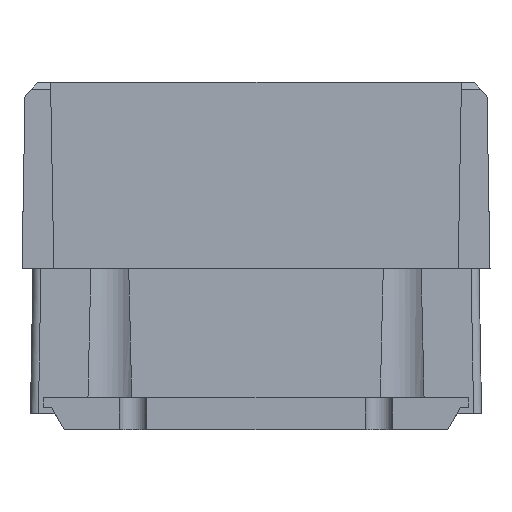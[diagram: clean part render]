
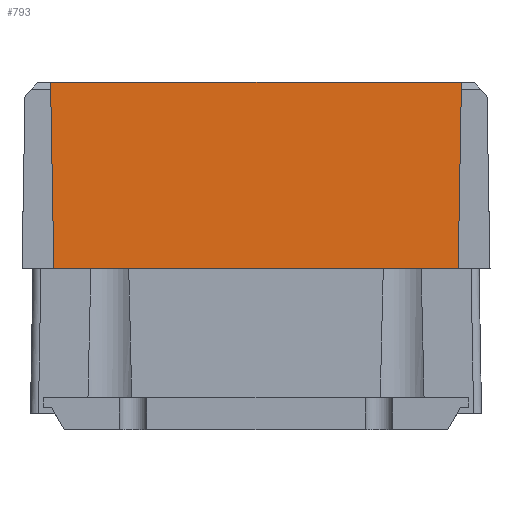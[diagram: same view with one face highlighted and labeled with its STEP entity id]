
A CAD part, left-side view. The second image highlights one B-rep face of the part: STEP entity #793.
In plain terms, the highlighted planar face has unit normal (-1, 0, 0.018).
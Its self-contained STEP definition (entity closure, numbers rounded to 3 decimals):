
#457=CARTESIAN_POINT('',(-40.373,33.445,56.4));
#458=VERTEX_POINT('',#457);
#483=CARTESIAN_POINT('',(-40.9,32.918,26.2));
#484=VERTEX_POINT('',#483);
#491=CARTESIAN_POINT('',(-40.9,32.918,26.2));
#492=DIRECTION('',(0.017,0.017,1.));
#493=VECTOR('',#492,30.209);
#494=LINE('',#491,#493);
#495=EDGE_CURVE('',#484,#458,#494,.T.);
#683=CARTESIAN_POINT('',(-40.373,-33.445,56.4));
#684=VERTEX_POINT('',#683);
#691=CARTESIAN_POINT('',(-40.9,-32.918,26.2));
#692=VERTEX_POINT('',#691);
#693=CARTESIAN_POINT('',(-40.9,-32.918,26.2));
#694=DIRECTION('',(0.017,-0.017,1.));
#695=VECTOR('',#694,30.209);
#696=LINE('',#693,#695);
#697=EDGE_CURVE('',#692,#684,#696,.T.);
#724=CARTESIAN_POINT('',(-40.373,-32.918,56.4));
#725=DIRECTION('',(1.,0.,-0.017));
#726=DIRECTION('',(-0.017,0.,-1.));
#727=AXIS2_PLACEMENT_3D('',#724,#725,#726);
#728=PLANE('',#727);
#729=CARTESIAN_POINT('',(-40.9,26.815,26.2));
#730=VERTEX_POINT('',#729);
#731=CARTESIAN_POINT('',(-40.9,26.815,26.2));
#732=DIRECTION('',(0.0,1.0,0.0));
#733=VECTOR('',#732,6.103);
#734=LINE('',#731,#733);
#735=EDGE_CURVE('',#730,#484,#734,.T.);
#736=ORIENTED_EDGE('',*,*,#735,.F.);
#737=CARTESIAN_POINT('',(-40.9,20.785,26.2));
#738=VERTEX_POINT('',#737);
#739=CARTESIAN_POINT('',(-40.9,20.785,26.2));
#740=DIRECTION('',(0.0,1.0,0.0));
#741=VECTOR('',#740,6.03);
#742=LINE('',#739,#741);
#743=EDGE_CURVE('',#730,#738,#742,.F.);
#744=ORIENTED_EDGE('',*,*,#743,.T.);
#745=CARTESIAN_POINT('',(-40.9,-20.785,26.2));
#746=VERTEX_POINT('',#745);
#747=CARTESIAN_POINT('',(-40.9,-20.785,26.2));
#748=DIRECTION('',(0.0,1.0,0.0));
#749=VECTOR('',#748,41.57);
#750=LINE('',#747,#749);
#751=EDGE_CURVE('',#746,#738,#750,.T.);
#752=ORIENTED_EDGE('',*,*,#751,.F.);
#753=CARTESIAN_POINT('',(-40.9,-26.815,26.2));
#754=VERTEX_POINT('',#753);
#755=CARTESIAN_POINT('',(-40.9,-26.815,26.2));
#756=DIRECTION('',(0.0,1.0,0.0));
#757=VECTOR('',#756,6.03);
#758=LINE('',#755,#757);
#759=EDGE_CURVE('',#746,#754,#758,.F.);
#760=ORIENTED_EDGE('',*,*,#759,.T.);
#761=CARTESIAN_POINT('',(-40.9,-32.918,26.2));
#762=DIRECTION('',(0.0,1.0,0.0));
#763=VECTOR('',#762,6.103);
#764=LINE('',#761,#763);
#765=EDGE_CURVE('',#692,#754,#764,.T.);
#766=ORIENTED_EDGE('',*,*,#765,.F.);
#767=ORIENTED_EDGE('',*,*,#697,.T.);
#768=CARTESIAN_POINT('',(-40.371,-33.447,56.5));
#769=VERTEX_POINT('',#768);
#770=CARTESIAN_POINT('',(-40.371,-33.447,56.5));
#771=DIRECTION('',(-0.017,0.017,-1.));
#772=VECTOR('',#771,0.1);
#773=LINE('',#770,#772);
#774=EDGE_CURVE('',#684,#769,#773,.F.);
#775=ORIENTED_EDGE('',*,*,#774,.T.);
#776=CARTESIAN_POINT('',(-40.371,33.447,56.5));
#777=VERTEX_POINT('',#776);
#778=CARTESIAN_POINT('',(-40.371,-33.447,56.5));
#779=DIRECTION('',(0.0,1.0,0.0));
#780=VECTOR('',#779,66.894);
#781=LINE('',#778,#780);
#782=EDGE_CURVE('',#777,#769,#781,.F.);
#783=ORIENTED_EDGE('',*,*,#782,.F.);
#784=CARTESIAN_POINT('',(-40.373,33.445,56.4));
#785=DIRECTION('',(0.017,0.017,1.));
#786=VECTOR('',#785,0.1);
#787=LINE('',#784,#786);
#788=EDGE_CURVE('',#777,#458,#787,.F.);
#789=ORIENTED_EDGE('',*,*,#788,.T.);
#790=ORIENTED_EDGE('',*,*,#495,.F.);
#791=EDGE_LOOP('',(#736,#744,#752,#760,#766,#767,#775,#783,#789,#790));
#792=FACE_OUTER_BOUND('',#791,.T.);
#793=ADVANCED_FACE('',(#792),#728,.F.);
